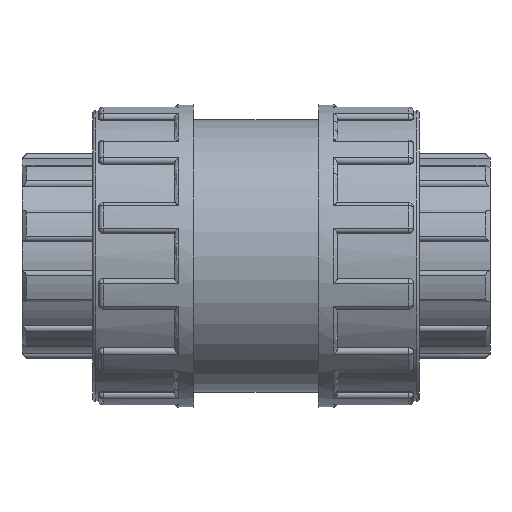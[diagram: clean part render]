
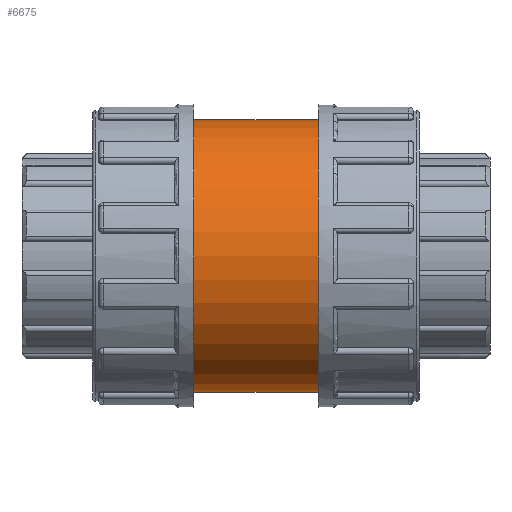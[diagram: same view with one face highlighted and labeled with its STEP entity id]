
A CAD part, front view. The second image highlights one B-rep face of the part: STEP entity #6675.
In plain terms, the highlighted cylindrical face has radius 29.7 mm (diameter 59.4 mm), a full revolution.
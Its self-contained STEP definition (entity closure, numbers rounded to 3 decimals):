
#185=FACE_BOUND('',#1099,.T.);
#186=FACE_BOUND('',#1100,.T.);
#670=FACE_OUTER_BOUND('',#1098,.T.);
#1098=EDGE_LOOP('',(#6073));
#1099=EDGE_LOOP('',(#6074));
#1100=EDGE_LOOP('',(#6075));
#1149=B_SPLINE_CURVE_WITH_KNOTS('',3,(#10735,#10736,#10737,#10738,#10739,
#10740,#10741,#10742,#10743,#10744,#10745,#10746,#10747,#10748,#10749,#10750,
#10751,#10752,#10753,#10754,#10755,#10756,#10757,#10758,#10759,#10760,#10761,
#10762,#10763,#10764,#10765,#10766,#10767,#10768),.UNSPECIFIED.,.T.,.F.,
(4,2,2,2,2,2,2,2,2,2,2,2,2,2,2,2,4),(0.,0.376,0.752,
1.128,1.504,1.88,2.256,2.632,
3.008,3.385,3.761,4.137,4.513,
4.889,5.265,5.641,6.017),
 .UNSPECIFIED.);
#2472=CIRCLE('',#7578,29.7);
#2473=CIRCLE('',#7580,29.7);
#2638=VERTEX_POINT('',#10734);
#3083=VERTEX_POINT('',#13353);
#3084=VERTEX_POINT('',#13356);
#3349=EDGE_CURVE('',#2638,#2638,#1149,.T.);
#4082=EDGE_CURVE('',#3083,#3083,#2472,.T.);
#4083=EDGE_CURVE('',#3084,#3084,#2473,.T.);
#6073=ORIENTED_EDGE('',*,*,#4082,.T.);
#6074=ORIENTED_EDGE('',*,*,#3349,.T.);
#6075=ORIENTED_EDGE('',*,*,#4083,.F.);
#6267=CYLINDRICAL_SURFACE('',#7579,29.7);
#6675=ADVANCED_FACE('',(#670,#185,#186),#6267,.T.);
#7578=AXIS2_PLACEMENT_3D('',#13354,#9749,#9750);
#7579=AXIS2_PLACEMENT_3D('',#13355,#9751,#9752);
#7580=AXIS2_PLACEMENT_3D('',#13357,#9753,#9754);
#9749=DIRECTION('center_axis',(1.,0.,0.));
#9750=DIRECTION('ref_axis',(0.,0.,-1.));
#9751=DIRECTION('center_axis',(1.,0.,0.));
#9752=DIRECTION('ref_axis',(0.,1.,0.));
#9753=DIRECTION('center_axis',(1.,0.,0.));
#9754=DIRECTION('ref_axis',(0.,0.,-1.));
#10734=CARTESIAN_POINT('',(0.,28.001,-9.9));
#10735=CARTESIAN_POINT('Ctrl Pts',(0.,28.001,
-9.9));
#10736=CARTESIAN_POINT('Ctrl Pts',(1.254,28.001,-9.9));
#10737=CARTESIAN_POINT('Ctrl Pts',(2.584,28.094,-9.647));
#10738=CARTESIAN_POINT('Ctrl Pts',(5.02,28.422,-8.634));
#10739=CARTESIAN_POINT('Ctrl Pts',(6.127,28.651,-7.874));
#10740=CARTESIAN_POINT('Ctrl Pts',(7.874,29.075,-6.127));
#10741=CARTESIAN_POINT('Ctrl Pts',(8.634,29.298,-5.02));
#10742=CARTESIAN_POINT('Ctrl Pts',(9.648,29.613,-2.584));
#10743=CARTESIAN_POINT('Ctrl Pts',(9.9,29.7,-1.253));
#10744=CARTESIAN_POINT('Ctrl Pts',(9.9,29.7,1.253));
#10745=CARTESIAN_POINT('Ctrl Pts',(9.648,29.613,2.584));
#10746=CARTESIAN_POINT('Ctrl Pts',(8.634,29.298,5.02));
#10747=CARTESIAN_POINT('Ctrl Pts',(7.874,29.075,6.127));
#10748=CARTESIAN_POINT('Ctrl Pts',(6.127,28.651,7.874));
#10749=CARTESIAN_POINT('Ctrl Pts',(5.02,28.422,8.634));
#10750=CARTESIAN_POINT('Ctrl Pts',(2.584,28.094,9.647));
#10751=CARTESIAN_POINT('Ctrl Pts',(1.254,28.001,9.9));
#10752=CARTESIAN_POINT('Ctrl Pts',(-1.254,28.001,9.9));
#10753=CARTESIAN_POINT('Ctrl Pts',(-2.584,28.094,9.647));
#10754=CARTESIAN_POINT('Ctrl Pts',(-5.02,28.422,8.634));
#10755=CARTESIAN_POINT('Ctrl Pts',(-6.127,28.651,7.874));
#10756=CARTESIAN_POINT('Ctrl Pts',(-7.874,29.075,6.127));
#10757=CARTESIAN_POINT('Ctrl Pts',(-8.634,29.298,5.02));
#10758=CARTESIAN_POINT('Ctrl Pts',(-9.648,29.613,2.584));
#10759=CARTESIAN_POINT('Ctrl Pts',(-9.9,29.7,1.253));
#10760=CARTESIAN_POINT('Ctrl Pts',(-9.9,29.7,-1.253));
#10761=CARTESIAN_POINT('Ctrl Pts',(-9.648,29.613,-2.584));
#10762=CARTESIAN_POINT('Ctrl Pts',(-8.634,29.298,-5.02));
#10763=CARTESIAN_POINT('Ctrl Pts',(-7.874,29.075,-6.127));
#10764=CARTESIAN_POINT('Ctrl Pts',(-6.127,28.651,-7.874));
#10765=CARTESIAN_POINT('Ctrl Pts',(-5.02,28.422,-8.634));
#10766=CARTESIAN_POINT('Ctrl Pts',(-2.584,28.094,-9.647));
#10767=CARTESIAN_POINT('Ctrl Pts',(-1.254,28.001,-9.9));
#10768=CARTESIAN_POINT('Ctrl Pts',(0.,28.001,
-9.9));
#13353=CARTESIAN_POINT('',(-13.6,29.7,0.));
#13354=CARTESIAN_POINT('Origin',(-13.6,0.,0.));
#13355=CARTESIAN_POINT('Origin',(0.,0.,0.));
#13356=CARTESIAN_POINT('',(13.6,29.7,0.));
#13357=CARTESIAN_POINT('Origin',(13.6,0.,0.));
